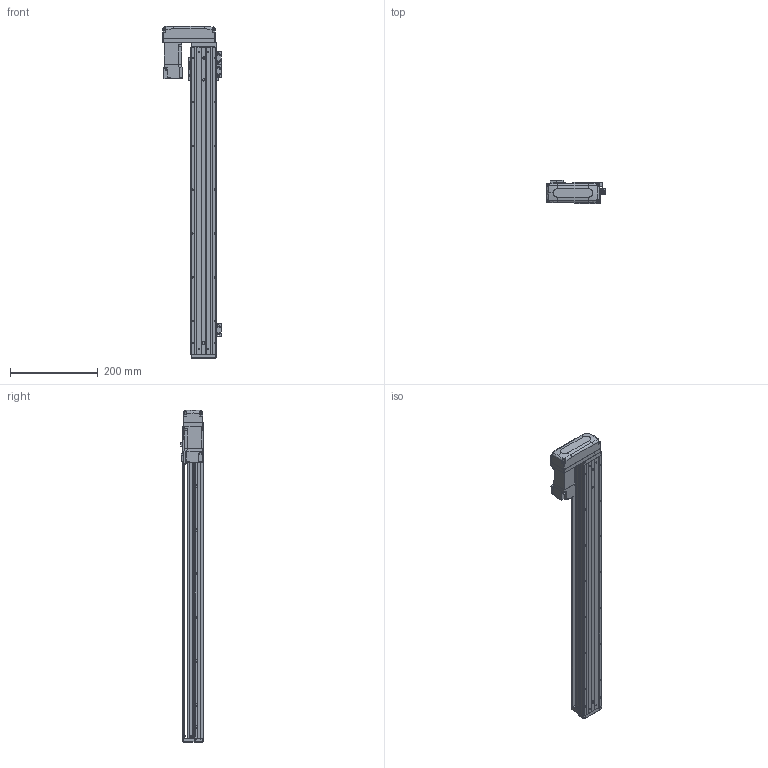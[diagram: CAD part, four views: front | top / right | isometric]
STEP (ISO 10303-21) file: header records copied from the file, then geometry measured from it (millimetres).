
FILE_DESCRIPTION (( 'STEP AP203' ), '1' );
FILE_NAME ('KTHA50-600-BR-M10-C4L.step', '2022-03-19T07:16:15', ( '微软用户' ), ( '微软中国' ), 'SwSTEP 2.0', 'SolidWorks 2020', '' );
FILE_SCHEMA (( 'CONFIG_CONTROL_DESIGN' ));
Length unit declared in the file: millimetre
Products named in the file (18): GBT 70.1-M3℅6; CTHA50-015-2_CTHA60-015-2; KTHA50-002; CTHA60-017; CTHA60-033; KTHA50-004; GBT 70.1-M4×12; GBT 70.1-M3×15; KTHA50-005; CTHA60-016; KTHA50-600-BR-M10-C4L; GB¨uT 70.2-M3¡Á6_M3¡Á6; CTHA60-021; EE_SX911P_R; GBT 70.3-M3℅6; GBT77-2000 M3×3; HG-KR13（三菱）; KTHA50-001_700
Assembly tree (53 placements, depth 2):
  KTHA50-600-BR-M10-C4L
    KTHA50-001_700
    KTHA50-002
    KTHA50-004
    KTHA50-005
    GB¨uT 70.2-M3¡Á6_M3¡Á6  x6
    EE_SX911P_R  x3
    GBT77-2000 M3×3  x6
    GBT 70.1-M3℅6  x6
    CTHA60-017  x3
    GBT 70.1-M4×12  x10
    CTHA60-016  x2
    CTHA60-021  x2
    GBT 70.3-M3℅6  x4
    HG-KR13（三菱）
    CTHA50-015-2_CTHA60-015-2
    CTHA60-033
    GBT 70.1-M3×15  x4
Bounding box: 133.82 x 52.3 x 757 mm (x, y, z)
Volume: 1501064.1 mm3; surface area: 367577.2 mm2
Topology: 56 solids, 56 shells, 2303 faces, 5463 edges, 3352 vertices
Faces by surface type: plane 1288, cylinder 562, cone 311, torus 100, bspline 26, sphere 16
Entity records: 39527 total; most frequent: CARTESIAN_POINT 7458, DIRECTION 6185, ORIENTED_EDGE 5938, EDGE_CURVE 2969, AXIS2_PLACEMENT_3D 2095, LINE 1995, VECTOR 1995, VERTEX_POINT 1866
